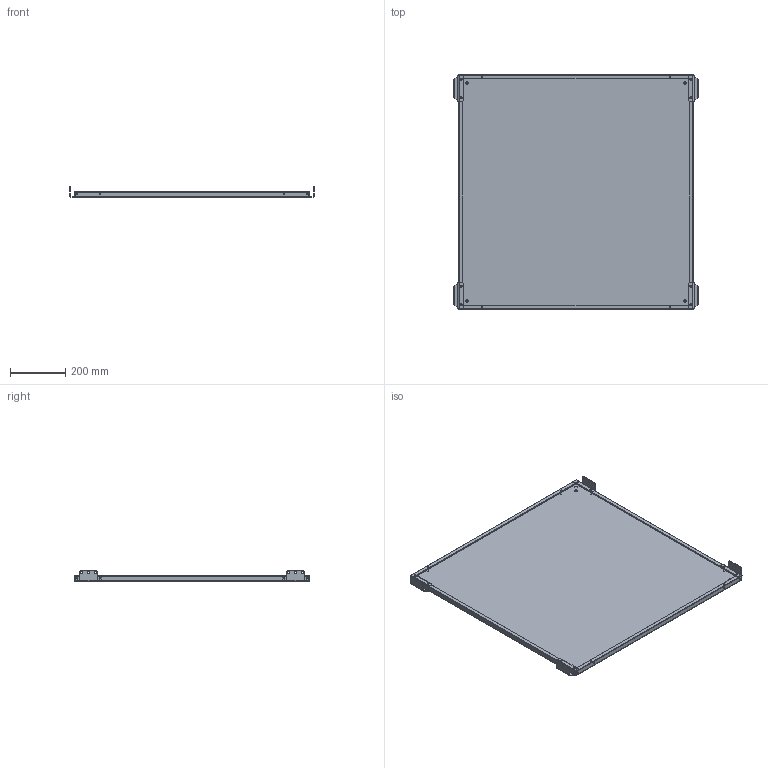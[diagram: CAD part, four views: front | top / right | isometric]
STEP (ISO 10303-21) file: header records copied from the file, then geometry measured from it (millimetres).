
FILE_DESCRIPTION (( 'STEP AP203' ), '1' );
FILE_NAME ('MP 85.85 M Ïàíåëü ìîíòàæíàÿ ñåêöèîííàÿ.STEP', '2021-04-06T07:33:26', ( '' ), ( '' ), 'SwSTEP 2.0', 'SolidWorks 2018', '' );
FILE_SCHEMA (( 'CONFIG_CONTROL_DESIGN' ));
Length unit declared in the file: millimetre
Products named in the file (1): MP 85.85 M Ïàíåëü ìîíòàæíàÿ ñåêöèîííàÿ
Bounding box: 885 x 850 x 37.75 mm (x, y, z)
Volume: 1699241.7 mm3; surface area: 1710944 mm2
Topology: 5 solids, 5 shells, 388 faces, 1016 edges, 632 vertices
Faces by surface type: cylinder 196, plane 168, bspline 16, sphere 8
Entity records: 12713 total; most frequent: CARTESIAN_POINT 2749, DIRECTION 2050, ORIENTED_EDGE 2016, EDGE_CURVE 1008, AXIS2_PLACEMENT_3D 733, VERTEX_POINT 632, VECTOR 584, LINE 584
